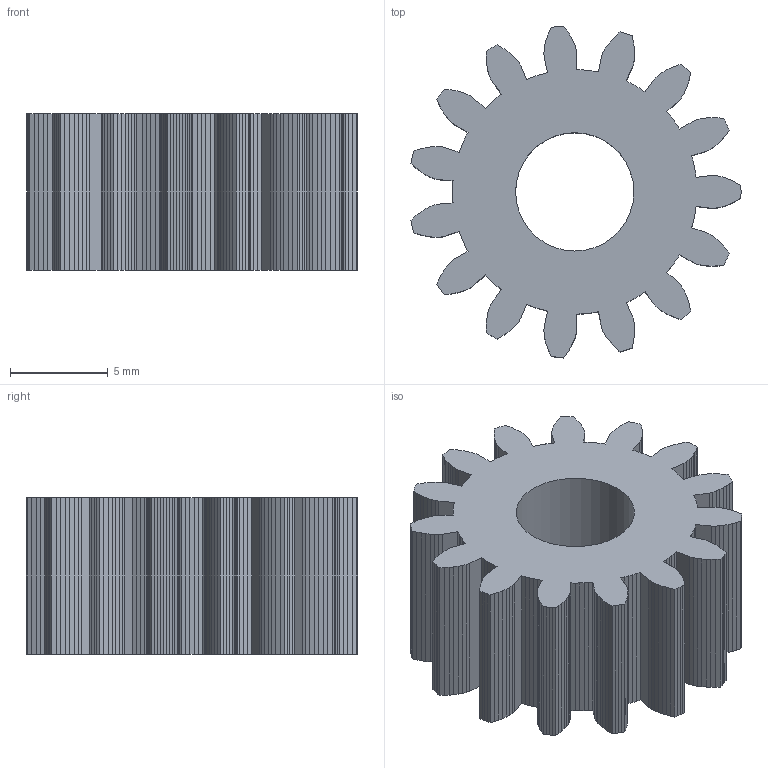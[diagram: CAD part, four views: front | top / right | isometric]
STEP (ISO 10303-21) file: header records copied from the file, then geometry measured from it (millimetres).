
FILE_DESCRIPTION(('Open CASCADE Model'),'2;1');
FILE_NAME('Open CASCADE Shape Model','2026-10-17T21:05:51',('Author'),( 'Open CASCADE'),'Open CASCADE STEP processor 7.9','Open CASCADE 7.9' ,'Unknown');
FILE_SCHEMA(('AUTOMOTIVE_DESIGN { 1 0 10303 214 1 1 1 1 }'));
Length unit declared in the file: millimetre
Products named in the file (1): Open CASCADE STEP translator 7.9 24
Bounding box: 16.88 x 16.96 x 8 mm (x, y, z)
Volume: 1134 mm3; surface area: 1224.8 mm2
Topology: 1 solids, 1 shells, 378 faces, 1128 edges, 752 vertices
Faces by surface type: plane 377, cylinder 1
Full cylindrical faces by diameter (mm): 6.05 x1
Entity records: 27118 total; most frequent: CARTESIAN_POINT 4527, DIRECTION 4142, LINE 3380, VECTOR 3380, ORIENTED_EDGE 2256, PCURVE 2256, DEFINITIONAL_REPRESENTATION 2256, EDGE_CURVE 1128
